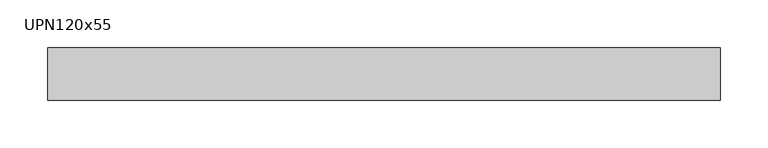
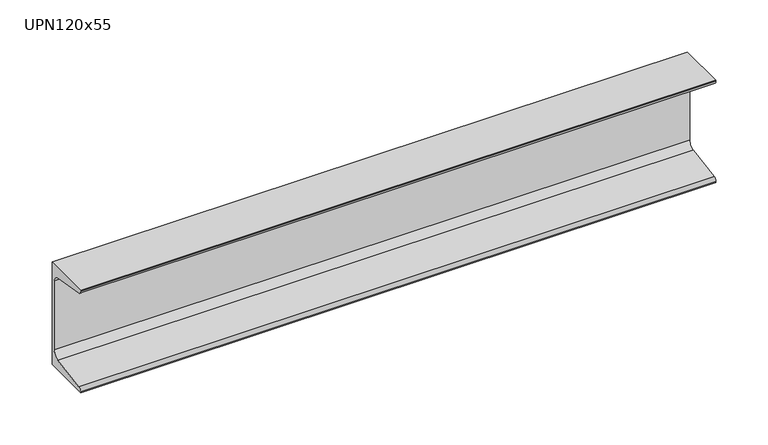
"""IFC4 building model written with IfcOpenShell, lengths in millimetres: beam geometry, M_MC Shapes : UPN120x55."""

from ifc_helpers import new_model, si_unit, point, frame, frame_2d, origin, place, context, project, spatial, polyline, circle_curve, trimmed, segment, composite_curve, outline, extrude, source, transform, mapped, element, save


def upn120x55_dbb17e30(model_context):
    return source(origin(), model_context, "Body", "SweptSolid", [
        extrude(outline(composite_curve([segment(polyline([(10.9, 60.0), (10.9, -60.0), (-44.1, -60.0), (-44.1, -59.0253247)]), True, "CONTINUOUS"), segment(trimmed(circle_curve(frame_2d((-40.15, -59.0253247)), 3.95), [point((-44.1, -59.0253247))], [point((-40.7993773, -55.1290689))], False, "CARTESIAN"), True, "CONTINUOUS"), segment(polyline([(-40.7993773, -55.1290689), (-0.2512455, -48.3710335)]), True, "CONTINUOUS"), segment(trimmed(circle_curve(frame_2d((-1.55, -40.5785219)), 7.9), [point((-0.2512455, -48.3710335))], [point((6.35, -40.5785219))], True, "CARTESIAN"), True, "CONTINUOUS"), segment(polyline([(6.35, -40.5785219), (6.35, 40.5785219)]), True, "CONTINUOUS"), segment(trimmed(circle_curve(frame_2d((-1.55, 40.5785219)), 7.9), [point((6.35, 40.5785219))], [point((-0.2512455, 48.3710335))], True, "CARTESIAN"), True, "CONTINUOUS"), segment(polyline([(-0.2512455, 48.3710335), (-40.7993773, 55.1290689)]), True, "CONTINUOUS"), segment(trimmed(circle_curve(frame_2d((-40.15, 59.0253247)), 3.95), [point((-40.7993773, 55.1290689))], [point((-44.1, 59.0253247))], False, "CARTESIAN"), True, "CONTINUOUS"), segment(polyline([(-44.1, 59.0253247), (-44.1, 60.0), (10.9, 60.0)]), True, "CONTINUOUS")], self_intersect=False)), frame((-358.9, 0.0, 0.0), z_axis=(1.0, 0.0, 0.0), x_axis=(0.0, 1.0, 0.0)), (0.0, 0.0, 1.0), 705.1),
    ])


if __name__ == "__main__":
    model = new_model("IFC4")
    model_context = context("Model", 3, world=origin())
    ifc_project = project(units=[si_unit("LENGTHUNIT", "METRE", prefix="MILLI")], contexts=[model_context])
    site = spatial("IfcSite", under=ifc_project)
    building = spatial("IfcBuilding", under=site)
    placement = place(None, origin())
    upn120x55_shape = upn120x55_dbb17e30(model_context)
    element("IfcBeam", 1, ObjectType="M_MC Shapes : UPN120x55", at=placement, inside=building, context=model_context, shape_type="MappedRepresentation", body=[
        mapped(upn120x55_shape, transform((0.0, 0.0, 0.0), x_axis=(1.0, 0.0, 0.0), y_axis=(0.0, 1.0, 0.0), z_axis=(0.0, 0.0, 1.0))),
    ])
    save(model, "model.ifc")
